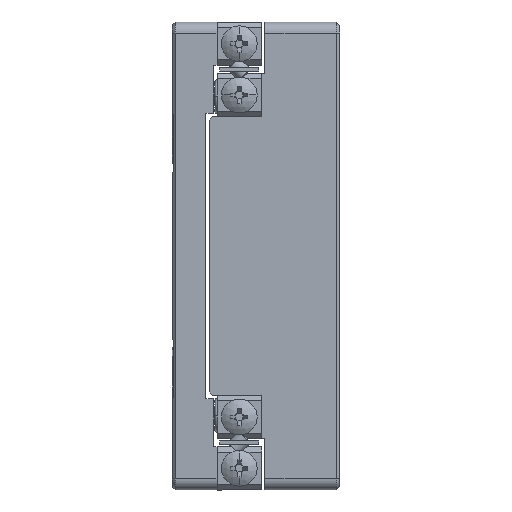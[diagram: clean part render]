
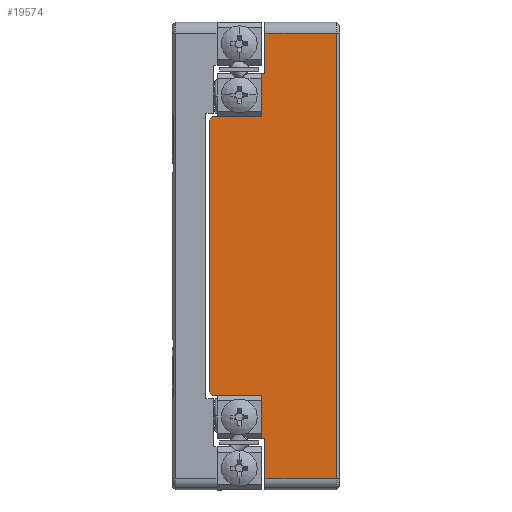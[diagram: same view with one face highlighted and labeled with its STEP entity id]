
A CAD part, left-side view. The second image highlights one B-rep face of the part: STEP entity #19574.
In plain terms, the highlighted planar face has unit normal (-1, 0, 0).
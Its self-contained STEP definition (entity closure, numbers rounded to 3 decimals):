
#6 = LINE ( 'NONE', #26891, #3243 ) ;
#695 = LINE ( 'NONE', #31927, #20552 ) ;
#968 = VERTEX_POINT ( 'NONE', #25591 ) ;
#1134 = DIRECTION ( 'NONE',  ( 0., 0., 1. ) ) ;
#1521 = CARTESIAN_POINT ( 'NONE',  ( -16.5, 7., 12.5 ) ) ;
#1707 = EDGE_CURVE ( 'NONE', #968, #8352, #9153, .T. ) ;
#1802 = ORIENTED_EDGE ( 'NONE', *, *, #23153, .F. ) ;
#1831 = VECTOR ( 'NONE', #29765, 1000. ) ;
#2156 = CARTESIAN_POINT ( 'NONE',  ( -16.5, 11.7, 16.4 ) ) ;
#2187 = EDGE_CURVE ( 'NONE', #17226, #8155, #9094, .T. ) ;
#2269 = CARTESIAN_POINT ( 'NONE',  ( -16.5, 11.7, 12.2 ) ) ;
#2427 = LINE ( 'NONE', #12519, #28875 ) ;
#2975 = ORIENTED_EDGE ( 'NONE', *, *, #11875, .F. ) ;
#2990 = VERTEX_POINT ( 'NONE', #19527 ) ;
#3243 = VECTOR ( 'NONE', #24042, 1000. ) ;
#4308 = VECTOR ( 'NONE', #1134, 1000. ) ;
#4706 = LINE ( 'NONE', #16845, #1831 ) ;
#5048 = EDGE_CURVE ( 'NONE', #10980, #8712, #6, .T. ) ;
#5174 = DIRECTION ( 'NONE',  ( 0., 1., 0. ) ) ;
#5348 = EDGE_CURVE ( 'NONE', #11850, #32285, #12094, .T. ) ;
#5479 = DIRECTION ( 'NONE',  ( 0., -1., 0. ) ) ;
#6423 = LINE ( 'NONE', #25886, #15324 ) ;
#7480 = ORIENTED_EDGE ( 'NONE', *, *, #20165, .F. ) ;
#7794 = EDGE_LOOP ( 'NONE', ( #31061, #9913, #30790, #26624, #14955, #7480, #30560, #10458, #8261, #24753, #23604, #28047, #1802, #2975 ) ) ;
#8155 = VERTEX_POINT ( 'NONE', #28336 ) ;
#8261 = ORIENTED_EDGE ( 'NONE', *, *, #11184, .F. ) ;
#8331 = VERTEX_POINT ( 'NONE', #21358 ) ;
#8352 = VERTEX_POINT ( 'NONE', #18854 ) ;
#8577 = DIRECTION ( 'NONE',  ( 0., 0., 1. ) ) ;
#8610 = EDGE_CURVE ( 'NONE', #8331, #968, #29269, .T. ) ;
#8668 = CARTESIAN_POINT ( 'NONE',  ( -16.5, 11.7, -20. ) ) ;
#8712 = VERTEX_POINT ( 'NONE', #2269 ) ;
#8921 = VECTOR ( 'NONE', #30532, 1000. ) ;
#9094 = LINE ( 'NONE', #9490, #10693 ) ;
#9153 = LINE ( 'NONE', #16647, #4308 ) ;
#9333 = DIRECTION ( 'NONE',  ( 0., 1., 0. ) ) ;
#9490 = CARTESIAN_POINT ( 'NONE',  ( -16.5, 0.3, 21. ) ) ;
#9766 = DIRECTION ( 'NONE',  ( 0., -1., 0. ) ) ;
#9776 = VECTOR ( 'NONE', #18695, 1000. ) ;
#9913 = ORIENTED_EDGE ( 'NONE', *, *, #32087, .F. ) ;
#10458 = ORIENTED_EDGE ( 'NONE', *, *, #2187, .F. ) ;
#10693 = VECTOR ( 'NONE', #25032, 1000. ) ;
#10980 = VERTEX_POINT ( 'NONE', #22502 ) ;
#11184 = EDGE_CURVE ( 'NONE', #8352, #17226, #25163, .T. ) ;
#11208 = VERTEX_POINT ( 'NONE', #15665 ) ;
#11697 = FACE_OUTER_BOUND ( 'NONE', #7794, .T. ) ;
#11850 = VERTEX_POINT ( 'NONE', #24484 ) ;
#11875 = EDGE_CURVE ( 'NONE', #8712, #19744, #4706, .T. ) ;
#12094 = LINE ( 'NONE', #19536, #29622 ) ;
#12519 = CARTESIAN_POINT ( 'NONE',  ( -16.5, 11.7, -16.4 ) ) ;
#12788 = CARTESIAN_POINT ( 'NONE',  ( -16.5, 11.4, 12.5 ) ) ;
#12967 = DIRECTION ( 'NONE',  ( 0., 0.707, 0.707 ) ) ;
#13370 = DIRECTION ( 'NONE',  ( 0., -1., 0. ) ) ;
#13377 = EDGE_CURVE ( 'NONE', #11208, #11850, #695, .T. ) ;
#13822 = DIRECTION ( 'NONE',  ( 1., 0., 0. ) ) ;
#14284 = DIRECTION ( 'NONE',  ( 0., 0., -1. ) ) ;
#14955 = ORIENTED_EDGE ( 'NONE', *, *, #21802, .F. ) ;
#15194 = AXIS2_PLACEMENT_3D ( 'NONE', #26910, #13822, #14284 ) ;
#15324 = VECTOR ( 'NONE', #13370, 1000. ) ;
#15665 = CARTESIAN_POINT ( 'NONE',  ( -16.5, 7., -16.4 ) ) ;
#16299 = VERTEX_POINT ( 'NONE', #27960 ) ;
#16647 = CARTESIAN_POINT ( 'NONE',  ( -16.5, 6.7, 21. ) ) ;
#16845 = CARTESIAN_POINT ( 'NONE',  ( -16.5, 11.4, 12.5 ) ) ;
#16999 = VECTOR ( 'NONE', #19213, 1000. ) ;
#17226 = VERTEX_POINT ( 'NONE', #22212 ) ;
#18610 = CARTESIAN_POINT ( 'NONE',  ( -16.5, 11.7, 20. ) ) ;
#18695 = DIRECTION ( 'NONE',  ( 0., 0., 1. ) ) ;
#18854 = CARTESIAN_POINT ( 'NONE',  ( -16.5, 6.7, 20. ) ) ;
#19034 = CARTESIAN_POINT ( 'NONE',  ( -16.5, 7., 21. ) ) ;
#19213 = DIRECTION ( 'NONE',  ( 0., 1., 0. ) ) ;
#19527 = CARTESIAN_POINT ( 'NONE',  ( -16.5, 6.7, -20. ) ) ;
#19536 = CARTESIAN_POINT ( 'NONE',  ( -16.5, 11.7, -12.5 ) ) ;
#19574 = ADVANCED_FACE ( 'NONE', ( #11697 ), #24295, .F. ) ;
#19744 = VERTEX_POINT ( 'NONE', #12788 ) ;
#20165 = EDGE_CURVE ( 'NONE', #2990, #16299, #29690, .T. ) ;
#20241 = CARTESIAN_POINT ( 'NONE',  ( -16.5, 6.7, 21. ) ) ;
#20552 = VECTOR ( 'NONE', #8577, 1000. ) ;
#21358 = CARTESIAN_POINT ( 'NONE',  ( -16.5, 7., 16.4 ) ) ;
#21802 = EDGE_CURVE ( 'NONE', #16299, #11208, #2427, .T. ) ;
#22089 = EDGE_CURVE ( 'NONE', #8155, #2990, #30490, .T. ) ;
#22212 = CARTESIAN_POINT ( 'NONE',  ( -16.5, 0.3, 20. ) ) ;
#22502 = CARTESIAN_POINT ( 'NONE',  ( -16.5, 11.7, -12.2 ) ) ;
#23153 = EDGE_CURVE ( 'NONE', #19744, #30784, #6423, .T. ) ;
#23604 = ORIENTED_EDGE ( 'NONE', *, *, #8610, .F. ) ;
#24042 = DIRECTION ( 'NONE',  ( 0., 0., 1. ) ) ;
#24295 = PLANE ( 'NONE',  #15194 ) ;
#24322 = LINE ( 'NONE', #25929, #27983 ) ;
#24406 = LINE ( 'NONE', #19034, #9776 ) ;
#24484 = CARTESIAN_POINT ( 'NONE',  ( -16.5, 7., -12.5 ) ) ;
#24753 = ORIENTED_EDGE ( 'NONE', *, *, #1707, .F. ) ;
#25032 = DIRECTION ( 'NONE',  ( 0., 0., -1. ) ) ;
#25129 = VECTOR ( 'NONE', #9766, 1000. ) ;
#25163 = LINE ( 'NONE', #18610, #32149 ) ;
#25591 = CARTESIAN_POINT ( 'NONE',  ( -16.5, 6.7, 16.4 ) ) ;
#25886 = CARTESIAN_POINT ( 'NONE',  ( -16.5, 11.7, 12.5 ) ) ;
#25929 = CARTESIAN_POINT ( 'NONE',  ( -16.5, 11.4, -12.5 ) ) ;
#26624 = ORIENTED_EDGE ( 'NONE', *, *, #13377, .F. ) ;
#26891 = CARTESIAN_POINT ( 'NONE',  ( -16.5, 11.7, 21. ) ) ;
#26910 = CARTESIAN_POINT ( 'NONE',  ( -16.5, 11.7, 21. ) ) ;
#27960 = CARTESIAN_POINT ( 'NONE',  ( -16.5, 6.7, -16.4 ) ) ;
#27983 = VECTOR ( 'NONE', #12967, 1000. ) ;
#28047 = ORIENTED_EDGE ( 'NONE', *, *, #33247, .F. ) ;
#28336 = CARTESIAN_POINT ( 'NONE',  ( -16.5, 0.3, -20. ) ) ;
#28875 = VECTOR ( 'NONE', #5174, 1000. ) ;
#29269 = LINE ( 'NONE', #2156, #25129 ) ;
#29485 = CARTESIAN_POINT ( 'NONE',  ( -16.5, 11.4, -12.5 ) ) ;
#29622 = VECTOR ( 'NONE', #9333, 1000. ) ;
#29690 = LINE ( 'NONE', #20241, #8921 ) ;
#29765 = DIRECTION ( 'NONE',  ( 0., -0.707, 0.707 ) ) ;
#30490 = LINE ( 'NONE', #8668, #16999 ) ;
#30532 = DIRECTION ( 'NONE',  ( 0., 0., 1. ) ) ;
#30560 = ORIENTED_EDGE ( 'NONE', *, *, #22089, .F. ) ;
#30784 = VERTEX_POINT ( 'NONE', #1521 ) ;
#30790 = ORIENTED_EDGE ( 'NONE', *, *, #5348, .F. ) ;
#31061 = ORIENTED_EDGE ( 'NONE', *, *, #5048, .F. ) ;
#31927 = CARTESIAN_POINT ( 'NONE',  ( -16.5, 7., 21. ) ) ;
#32087 = EDGE_CURVE ( 'NONE', #32285, #10980, #24322, .T. ) ;
#32149 = VECTOR ( 'NONE', #5479, 1000. ) ;
#32285 = VERTEX_POINT ( 'NONE', #29485 ) ;
#33247 = EDGE_CURVE ( 'NONE', #30784, #8331, #24406, .T. ) ;
